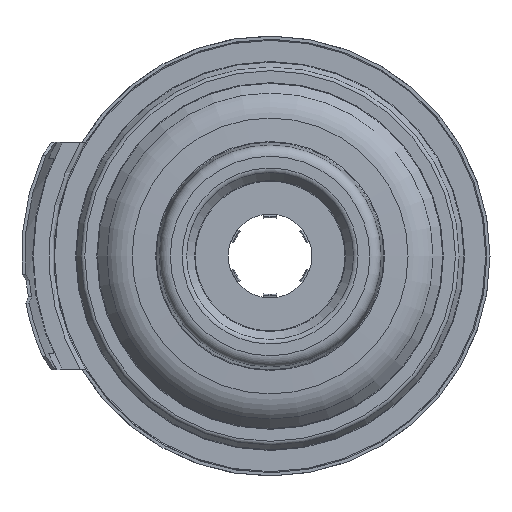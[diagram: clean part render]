
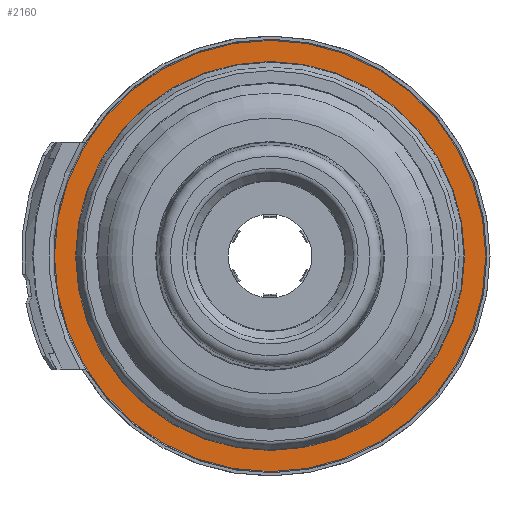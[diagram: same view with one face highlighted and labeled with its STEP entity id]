
A CAD part, front view. The second image highlights one B-rep face of the part: STEP entity #2160.
In plain terms, the highlighted planar face has unit normal (0, -1, 0).
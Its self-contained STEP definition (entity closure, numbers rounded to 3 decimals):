
#40=FACE_BOUND('',#666,.T.);
#162=PLANE('',#2412);
#528=FACE_OUTER_BOUND('',#665,.T.);
#665=EDGE_LOOP('',(#1901));
#666=EDGE_LOOP('',(#1902));
#804=CIRCLE('',#2411,40.7);
#805=CIRCLE('',#2413,36.7);
#1029=VERTEX_POINT('',#3910);
#1030=VERTEX_POINT('',#3914);
#1329=EDGE_CURVE('',#1029,#1029,#804,.T.);
#1330=EDGE_CURVE('',#1030,#1030,#805,.T.);
#1901=ORIENTED_EDGE('',*,*,#1329,.F.);
#1902=ORIENTED_EDGE('',*,*,#1330,.T.);
#2160=ADVANCED_FACE('',(#528,#40),#162,.T.);
#2411=AXIS2_PLACEMENT_3D('',#3912,#3036,#3037);
#2412=AXIS2_PLACEMENT_3D('',#3913,#3038,#3039);
#2413=AXIS2_PLACEMENT_3D('',#3915,#3040,#3041);
#3036=DIRECTION('center_axis',(0.,1.,0.));
#3037=DIRECTION('ref_axis',(1.,0.,0.));
#3038=DIRECTION('center_axis',(0.,-1.,0.));
#3039=DIRECTION('ref_axis',(0.,0.,-1.));
#3040=DIRECTION('center_axis',(0.,1.,0.));
#3041=DIRECTION('ref_axis',(1.,0.,0.));
#3910=CARTESIAN_POINT('',(0.,9.45,-40.7));
#3912=CARTESIAN_POINT('Origin',(0.,9.45,0.));
#3913=CARTESIAN_POINT('Origin',(-40.7,9.45,0.));
#3914=CARTESIAN_POINT('',(0.,9.45,-36.7));
#3915=CARTESIAN_POINT('Origin',(0.,9.45,0.));
